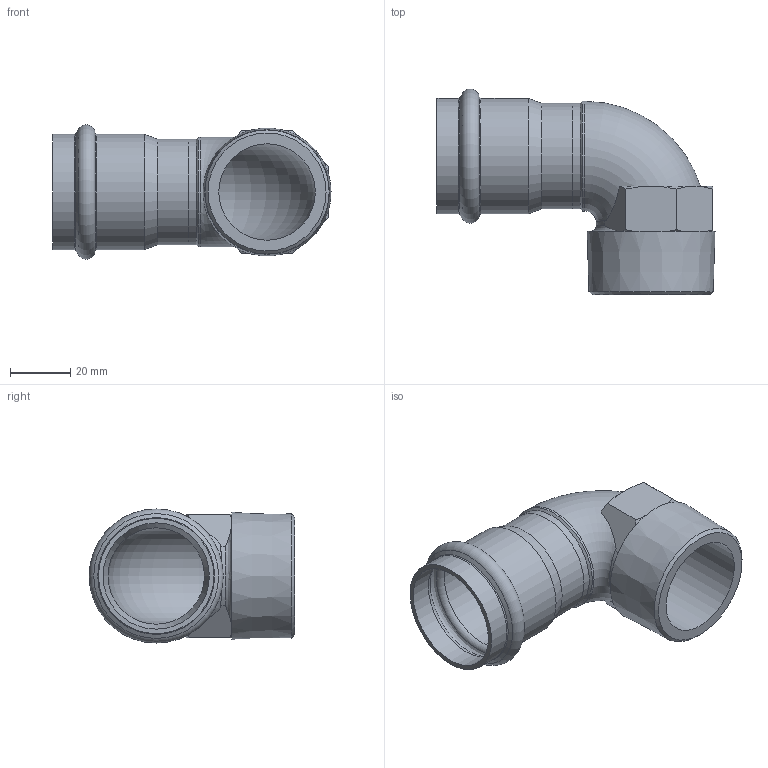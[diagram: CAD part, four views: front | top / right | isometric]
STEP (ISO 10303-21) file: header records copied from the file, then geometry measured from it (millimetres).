
FILE_DESCRIPTION((''),'2;1');
FILE_NAME('G:\Technics\CAD\Bauteile\035\69092AG35114(3).stp','2008-02-29T10:57:55',('herberg'),(''),'Autodesk Inventor 2008','Autodesk Inventor 2008','');
FILE_SCHEMA(('AUTOMOTIVE_DESIGN { 1 0 10303 214 1 1 1 1 }'));
Length unit declared in the file: millimetre
Products named in the file (3): 69092AG35114(3); G_69092AG35114(0); 6924335HM(1)
Assembly tree (2 placements, depth 2):
  69092AG35114(3)
    G_69092AG35114(0)
    6924335HM(1)
Bounding box: 92.21 x 68.24 x 44.49 mm (x, y, z)
Volume: 33652.4 mm3; surface area: 26513.4 mm2
Topology: 2 solids, 2 shells, 58 faces, 127 edges, 73 vertices
Faces by surface type: cone 19, plane 19, cylinder 11, torus 5, bspline 4
Full cylindrical faces by diameter (mm): 32 x3, 35 x2, 35.25 x2, 36.4 x1, 38.25 x2
Entity records: 1826 total; most frequent: CARTESIAN_POINT 657, DIRECTION 237, ORIENTED_EDGE 196, AXIS2_PLACEMENT_3D 109, EDGE_CURVE 98, EDGE_LOOP 87, VERTEX_POINT 69, FACE_OUTER_BOUND 58
